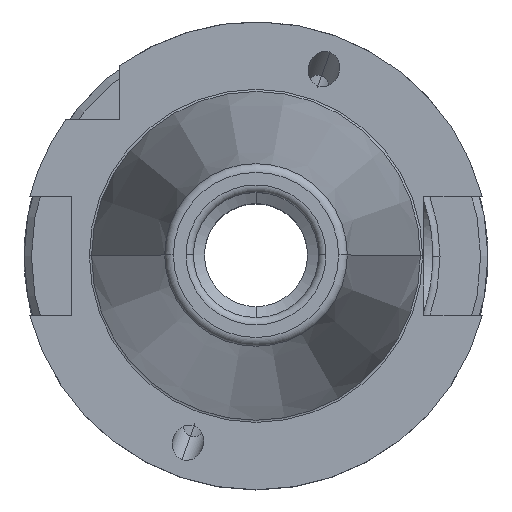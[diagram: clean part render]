
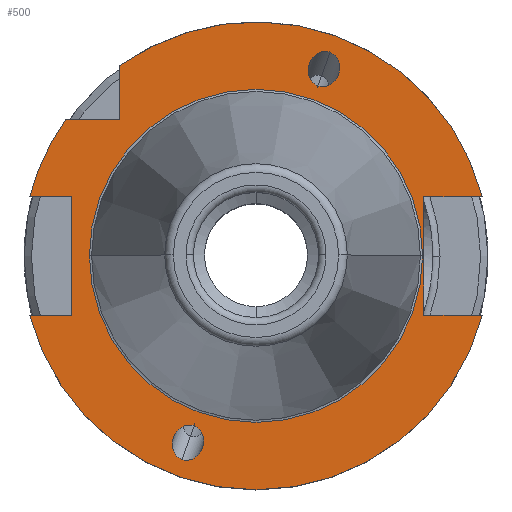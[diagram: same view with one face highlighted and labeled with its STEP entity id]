
A CAD part, top view. The second image highlights one B-rep face of the part: STEP entity #500.
In plain terms, the highlighted planar face has unit normal (0, 0, 1).
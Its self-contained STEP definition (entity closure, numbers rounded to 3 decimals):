
#500=ADVANCED_FACE('',(#993,#994,#995,#996),#997,.T.);
#993=FACE_OUTER_BOUND('',#1487,.T.);
#994=FACE_BOUND('',#1488,.T.);
#995=FACE_BOUND('',#1489,.T.);
#996=FACE_BOUND('',#1490,.T.);
#997=PLANE('',#1491);
#1487=EDGE_LOOP('',(#2830,#2831,#2832,#2833,#2834,#2835,#2836,#2837,#2838,#2839,#2840));
#1488=EDGE_LOOP('',(#2841,#2842));
#1489=EDGE_LOOP('',(#2843,#2844));
#1490=EDGE_LOOP('',(#2845,#2846,#2847));
#1491=AXIS2_PLACEMENT_3D('',#2848,#2849,#2850);
#2830=ORIENTED_EDGE('',*,*,#3513,.T.);
#2831=ORIENTED_EDGE('',*,*,#3594,.T.);
#2832=ORIENTED_EDGE('',*,*,#3576,.T.);
#2833=ORIENTED_EDGE('',*,*,#3584,.T.);
#2834=ORIENTED_EDGE('',*,*,#3581,.T.);
#2835=ORIENTED_EDGE('',*,*,#3595,.T.);
#2836=ORIENTED_EDGE('',*,*,#3596,.T.);
#2837=ORIENTED_EDGE('',*,*,#3597,.T.);
#2838=ORIENTED_EDGE('',*,*,#3598,.T.);
#2839=ORIENTED_EDGE('',*,*,#3533,.T.);
#2840=ORIENTED_EDGE('',*,*,#3525,.T.);
#2841=ORIENTED_EDGE('',*,*,#3455,.T.);
#2842=ORIENTED_EDGE('',*,*,#3329,.T.);
#2843=ORIENTED_EDGE('',*,*,#3322,.T.);
#2844=ORIENTED_EDGE('',*,*,#3459,.T.);
#2845=ORIENTED_EDGE('',*,*,#3220,.F.);
#2846=ORIENTED_EDGE('',*,*,#3219,.F.);
#2847=ORIENTED_EDGE('',*,*,#3599,.F.);
#2848=CARTESIAN_POINT('',(27.233,0.0,-3.2));
#2849=DIRECTION('',(0.0,0.0,1.0));
#2850=DIRECTION('',(1.0,0.0,0.0));
#3219=EDGE_CURVE('',#3893,#3896,#3897,.T.);
#3220=EDGE_CURVE('',#3896,#3898,#3899,.T.);
#3322=EDGE_CURVE('',#4075,#4072,#4076,.T.);
#3329=EDGE_CURVE('',#4083,#4085,#4087,.T.);
#3455=EDGE_CURVE('',#4085,#4083,#4277,.T.);
#3459=EDGE_CURVE('',#4072,#4075,#4282,.T.);
#3513=EDGE_CURVE('',#4354,#4355,#4356,.T.);
#3525=EDGE_CURVE('',#4376,#4354,#4377,.T.);
#3533=EDGE_CURVE('',#4387,#4376,#4388,.T.);
#3576=EDGE_CURVE('',#4441,#4439,#4442,.T.);
#3581=EDGE_CURVE('',#4448,#4446,#4449,.T.);
#3584=EDGE_CURVE('',#4439,#4448,#4452,.T.);
#3594=EDGE_CURVE('',#4355,#4441,#4464,.T.);
#3595=EDGE_CURVE('',#4446,#4465,#4466,.T.);
#3596=EDGE_CURVE('',#4465,#4467,#4468,.T.);
#3597=EDGE_CURVE('',#4467,#4469,#4470,.T.);
#3598=EDGE_CURVE('',#4469,#4387,#4471,.T.);
#3599=EDGE_CURVE('',#3898,#3893,#4472,.T.);
#3893=VERTEX_POINT('',#5092);
#3896=VERTEX_POINT('',#5095);
#3897=CIRCLE('',#5096,22.625);
#3898=VERTEX_POINT('',#5097);
#3899=CIRCLE('',#5098,22.625);
#4072=VERTEX_POINT('',#5458);
#4075=VERTEX_POINT('',#5462);
#4076=ELLIPSE('',#5463,2.425,2.1);
#4083=VERTEX_POINT('',#5471);
#4085=VERTEX_POINT('',#5474);
#4087=ELLIPSE('',#5477,2.425,2.1);
#4277=ELLIPSE('',#5892,2.425,2.1);
#4282=ELLIPSE('',#5897,2.425,2.1);
#4354=VERTEX_POINT('',#6068);
#4355=VERTEX_POINT('',#6069);
#4356=LINE('',#6070,#6071);
#4376=VERTEX_POINT('',#6133);
#4377=LINE('',#6134,#6135);
#4387=VERTEX_POINT('',#6167);
#4388=CIRCLE('',#6168,31.775);
#4439=VERTEX_POINT('',#6270);
#4441=VERTEX_POINT('',#6273);
#4442=LINE('',#6274,#6275);
#4446=VERTEX_POINT('',#6281);
#4448=VERTEX_POINT('',#6284);
#4449=LINE('',#6285,#6286);
#4452=LINE('',#6290,#6291);
#4464=CIRCLE('',#6314,31.775);
#4465=VERTEX_POINT('',#6315);
#4466=CIRCLE('',#6316,31.775);
#4467=VERTEX_POINT('',#6317);
#4468=LINE('',#6318,#6319);
#4469=VERTEX_POINT('',#6320);
#4470=LINE('',#6321,#6322);
#4471=LINE('',#6323,#6324);
#4472=CIRCLE('',#6325,22.625);
#5092=CARTESIAN_POINT('',(22.625,0.,-3.2));
#5095=CARTESIAN_POINT('',(0.0,22.625,-3.2));
#5096=AXIS2_PLACEMENT_3D('',#6572,#6573,#6574);
#5097=CARTESIAN_POINT('',(-22.625,0.,-3.2));
#5098=AXIS2_PLACEMENT_3D('',#6575,#6576,#6577);
#5458=CARTESIAN_POINT('',(10.064,27.65,-3.2));
#5462=CARTESIAN_POINT('',(8.405,23.093,-3.2));
#5463=AXIS2_PLACEMENT_3D('',#6734,#6735,#6736);
#5471=CARTESIAN_POINT('',(-10.064,-27.65,-3.2));
#5474=CARTESIAN_POINT('',(-8.405,-23.093,-3.2));
#5477=AXIS2_PLACEMENT_3D('',#6746,#6747,#6748);
#5892=AXIS2_PLACEMENT_3D('',#6917,#6918,#6919);
#5897=AXIS2_PLACEMENT_3D('',#6926,#6927,#6928);
#6068=CARTESIAN_POINT('',(-18.5,18.5,-3.2));
#6069=CARTESIAN_POINT('',(-25.834,18.5,-3.2));
#6070=CARTESIAN_POINT('',(-18.5,18.5,-3.2));
#6071=VECTOR('',#6991,7.334);
#6133=CARTESIAN_POINT('',(-18.5,25.834,-3.2));
#6134=CARTESIAN_POINT('',(-18.5,25.834,-3.2));
#6135=VECTOR('',#6998,7.334);
#6167=CARTESIAN_POINT('',(30.738,8.05,-3.2));
#6168=AXIS2_PLACEMENT_3D('',#7003,#7004,#7005);
#6270=CARTESIAN_POINT('',(-25.0,8.05,-3.2));
#6273=CARTESIAN_POINT('',(-30.738,8.05,-3.2));
#6274=CARTESIAN_POINT('',(-30.738,8.05,-3.2));
#6275=VECTOR('',#7055,5.738);
#6281=CARTESIAN_POINT('',(-30.738,-8.05,-3.2));
#6284=CARTESIAN_POINT('',(-25.0,-8.05,-3.2));
#6285=CARTESIAN_POINT('',(-25.0,-8.05,-3.2));
#6286=VECTOR('',#7059,5.738);
#6290=CARTESIAN_POINT('',(-25.0,8.05,-3.2));
#6291=VECTOR('',#7061,16.1);
#6314=AXIS2_PLACEMENT_3D('',#7070,#7071,#7072);
#6315=CARTESIAN_POINT('',(30.738,-8.05,-3.2));
#6316=AXIS2_PLACEMENT_3D('',#7073,#7074,#7075);
#6317=CARTESIAN_POINT('',(22.8,-8.05,-3.2));
#6318=CARTESIAN_POINT('',(30.738,-8.05,-3.2));
#6319=VECTOR('',#7076,7.938);
#6320=CARTESIAN_POINT('',(22.8,8.05,-3.2));
#6321=CARTESIAN_POINT('',(22.8,-8.05,-3.2));
#6322=VECTOR('',#7077,16.1);
#6323=CARTESIAN_POINT('',(22.8,8.05,-3.2));
#6324=VECTOR('',#7078,7.938);
#6325=AXIS2_PLACEMENT_3D('',#7079,#7080,#7081);
#6572=CARTESIAN_POINT('',(0.0,0.0,-3.2));
#6573=DIRECTION('',(0.0,-0.0,1.0));
#6574=DIRECTION('',(0.0,1.0,0.0));
#6575=CARTESIAN_POINT('',(0.0,0.0,-3.2));
#6576=DIRECTION('',(0.0,-0.0,1.0));
#6577=DIRECTION('',(0.0,1.0,0.0));
#6734=CARTESIAN_POINT('',(9.235,25.372,-3.2));
#6735=DIRECTION('',(0.0,0.0,-1.0));
#6736=DIRECTION('',(0.342,0.94,0.0));
#6746=CARTESIAN_POINT('',(-9.235,-25.372,-3.2));
#6747=DIRECTION('',(-0.0,0.0,-1.0));
#6748=DIRECTION('',(-0.342,-0.94,0.0));
#6917=CARTESIAN_POINT('',(-9.235,-25.372,-3.2));
#6918=DIRECTION('',(-0.0,0.0,-1.0));
#6919=DIRECTION('',(-0.342,-0.94,0.0));
#6926=CARTESIAN_POINT('',(9.235,25.372,-3.2));
#6927=DIRECTION('',(0.0,0.0,-1.0));
#6928=DIRECTION('',(0.342,0.94,0.0));
#6991=DIRECTION('',(-1.0,0.0,0.0));
#6998=DIRECTION('',(0.0,-1.0,0.0));
#7003=CARTESIAN_POINT('',(0.,0.0,-3.2));
#7004=DIRECTION('',(0.,0.0,1.0));
#7005=DIRECTION('',(1.0,0.0,0.));
#7055=DIRECTION('',(1.0,0.0,0.0));
#7059=DIRECTION('',(-1.0,0.0,0.0));
#7061=DIRECTION('',(0.0,-1.0,0.0));
#7070=CARTESIAN_POINT('',(0.,0.0,-3.2));
#7071=DIRECTION('',(0.,0.0,1.0));
#7072=DIRECTION('',(1.0,0.0,0.));
#7073=CARTESIAN_POINT('',(0.,0.0,-3.2));
#7074=DIRECTION('',(0.,0.0,1.0));
#7075=DIRECTION('',(1.0,0.0,0.));
#7076=DIRECTION('',(-1.0,0.0,0.0));
#7077=DIRECTION('',(0.0,1.0,0.0));
#7078=DIRECTION('',(1.0,0.0,0.0));
#7079=CARTESIAN_POINT('',(0.0,0.0,-3.2));
#7080=DIRECTION('',(0.0,-0.0,1.0));
#7081=DIRECTION('',(0.0,1.0,0.0));
